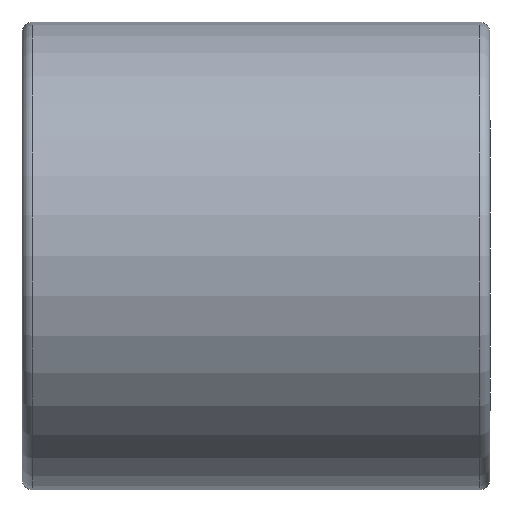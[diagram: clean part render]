
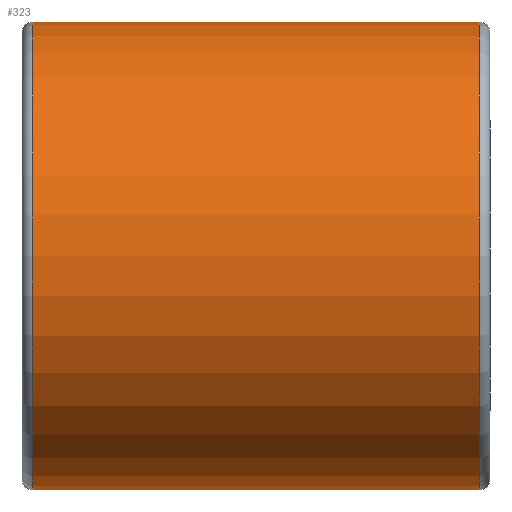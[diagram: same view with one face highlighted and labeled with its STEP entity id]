
A CAD part, top view. The second image highlights one B-rep face of the part: STEP entity #323.
In plain terms, the highlighted cylindrical face has radius 11 mm (diameter 22 mm), a partial arc.
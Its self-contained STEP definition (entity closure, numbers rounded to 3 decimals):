
#203=CARTESIAN_POINT('Vertex',(21.5,-11.,0.)) ;
#210=CARTESIAN_POINT('Vertex',(21.5,11.,0.)) ;
#230=CARTESIAN_POINT('Axis2P3D Location',(21.5,0.,0.)) ;
#251=CARTESIAN_POINT('Vertex',(0.5,11.,0.)) ;
#258=CARTESIAN_POINT('Vertex',(0.5,-11.,0.)) ;
#261=CARTESIAN_POINT('Axis2P3D Location',(0.5,0.,0.)) ;
#295=CARTESIAN_POINT('Line Origine',(11.,11.,0.)) ;
#300=CARTESIAN_POINT('Line Origine',(11.,-11.,0.)) ;
#312=CARTESIAN_POINT('Axis2P3D Location',(11.,0.,0.)) ;
#231=DIRECTION('Axis2P3D Direction',(1.,-0.,0.)) ;
#262=DIRECTION('Axis2P3D Direction',(1.,-0.,0.)) ;
#296=DIRECTION('Vector Direction',(1.,0.,0.)) ;
#301=DIRECTION('Vector Direction',(1.,0.,0.)) ;
#313=DIRECTION('Axis2P3D Direction',(1.,0.,0.)) ;
#314=DIRECTION('Axis2P3D XDirection',(0.,1.,0.)) ;
#232=AXIS2_PLACEMENT_3D('Circle Axis2P3D',#230,#231,$) ;
#263=AXIS2_PLACEMENT_3D('Circle Axis2P3D',#261,#262,$) ;
#315=AXIS2_PLACEMENT_3D('Cylinder Axis2P3D',#312,#313,#314) ;
#318=ORIENTED_EDGE('',*,*,#304,.T.) ;
#319=ORIENTED_EDGE('',*,*,#234,.F.) ;
#320=ORIENTED_EDGE('',*,*,#299,.F.) ;
#321=ORIENTED_EDGE('',*,*,#265,.T.) ;
#297=VECTOR('Line Direction',#296,1.) ;
#302=VECTOR('Line Direction',#301,1.) ;
#323=ADVANCED_FACE('STM14',(#322),#316,.T.) ;
#233=CIRCLE('generated circle',#232,11.) ;
#264=CIRCLE('generated circle',#263,11.) ;
#316=CYLINDRICAL_SURFACE('generated cylinder',#315,11.) ;
#234=EDGE_CURVE('',#211,#204,#233,.T.) ;
#265=EDGE_CURVE('',#252,#259,#264,.T.) ;
#299=EDGE_CURVE('',#252,#211,#298,.T.) ;
#304=EDGE_CURVE('',#259,#204,#303,.T.) ;
#317=EDGE_LOOP('',(#318,#319,#320,#321)) ;
#322=FACE_OUTER_BOUND('',#317,.T.) ;
#298=LINE('Line',#295,#297) ;
#303=LINE('Line',#300,#302) ;
#204=VERTEX_POINT('',#203) ;
#211=VERTEX_POINT('',#210) ;
#252=VERTEX_POINT('',#251) ;
#259=VERTEX_POINT('',#258) ;
